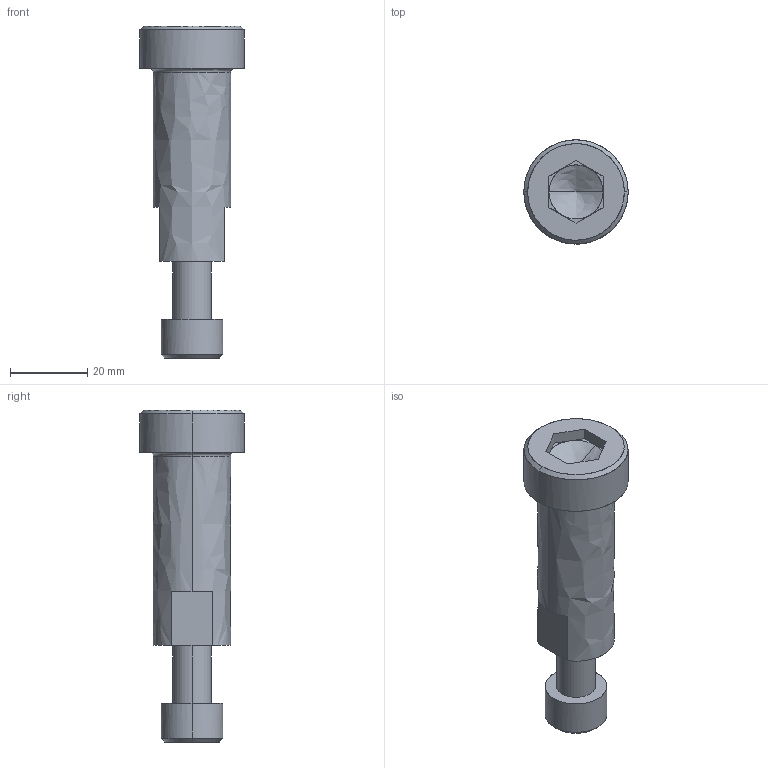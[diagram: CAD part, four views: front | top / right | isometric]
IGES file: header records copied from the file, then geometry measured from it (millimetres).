
Global section: file name: E:\UnigraphicsGraphicData\MISUMI_PRESS-PARTS\IGES\3d_sbtl20-50-30_05173_r00.igs; native system: NX V5.0; preprocessor: UGS NX IGES V5.0; author: MISUMI; date: 20110105.162504; units: millimetre
Bounding box: 27 x 27 x 86 mm (x, y, z)
Surface area: 7987 mm2 (no closed solid volume)
Topology: 0 solids, 0 shells, 54 faces, 310 edges, 306 vertices
Faces by surface type: bspline 54
